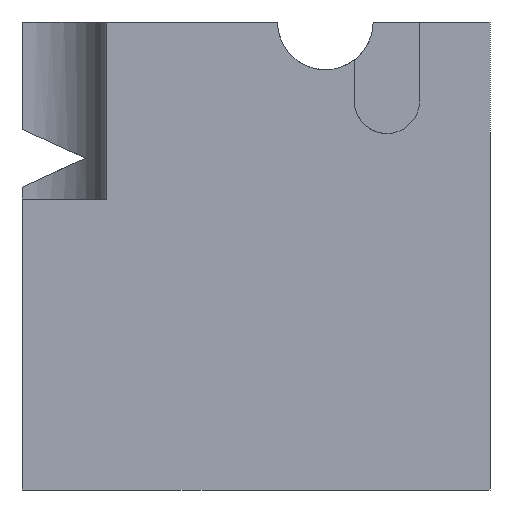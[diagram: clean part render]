
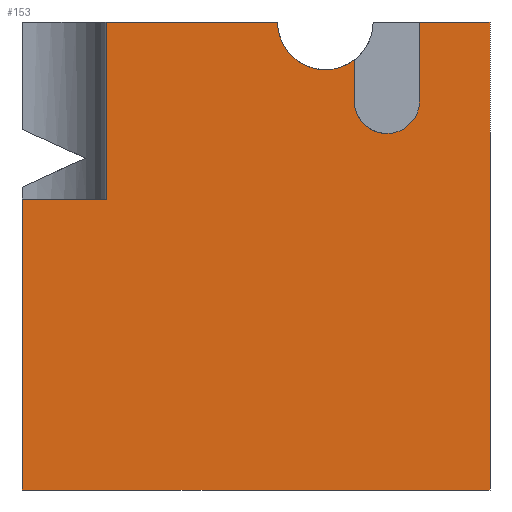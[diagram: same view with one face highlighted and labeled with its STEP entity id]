
A CAD part, left-side view. The second image highlights one B-rep face of the part: STEP entity #153.
In plain terms, the highlighted planar face has unit normal (-1, 0, 0).
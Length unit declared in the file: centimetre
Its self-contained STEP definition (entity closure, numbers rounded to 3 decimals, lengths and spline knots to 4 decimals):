
#11 = LINE ( 'NONE', #408, #1418 ) ;
#12 = VECTOR ( 'NONE', #949, 100. ) ;
#18 = ORIENTED_EDGE ( 'NONE', *, *, #759, .T. ) ;
#21 = CARTESIAN_POINT ( 'NONE',  ( 0., 150.6446, 831.5183 ) ) ;
#30 = DIRECTION ( 'NONE',  ( 0., 0., -1. ) ) ;
#38 = EDGE_CURVE ( 'NONE', #1297, #518, #152, .T. ) ;
#49 = CARTESIAN_POINT ( 'NONE',  ( 0., 1000., 1000. ) ) ;
#52 = ORIENTED_EDGE ( 'NONE', *, *, #133, .F. ) ;
#80 = VECTOR ( 'NONE', #1447, 100. ) ;
#87 = AXIS2_PLACEMENT_3D ( 'NONE', #1377, #1399, #1166 ) ;
#101 = CARTESIAN_POINT ( 'NONE',  ( 0., 1000., 621.7943 ) ) ;
#107 = ORIENTED_EDGE ( 'NONE', *, *, #481, .F. ) ;
#127 = LINE ( 'NONE', #1327, #286 ) ;
#133 = EDGE_CURVE ( 'NONE', #921, #825, #127, .T. ) ;
#149 = PLANE ( 'NONE',  #236 ) ;
#151 = CARTESIAN_POINT ( 'NONE',  ( 0., 351.8234, 1000. ) ) ;
#152 = LINE ( 'NONE', #1094, #80 ) ;
#153 = ADVANCED_FACE ( 'NONE', ( #1005 ), #149, .F. ) ;
#160 = ORIENTED_EDGE ( 'NONE', *, *, #1078, .F. ) ;
#236 = AXIS2_PLACEMENT_3D ( 'NONE', #49, #975, #424 ) ;
#250 = LINE ( 'NONE', #706, #1064 ) ;
#265 = LINE ( 'NONE', #971, #988 ) ;
#282 = VERTEX_POINT ( 'NONE', #1123 ) ;
#285 = CARTESIAN_POINT ( 'NONE',  ( 0., 0., 0. ) ) ;
#286 = VECTOR ( 'NONE', #1061, 100. ) ;
#301 = VECTOR ( 'NONE', #417, 100. ) ;
#325 = EDGE_CURVE ( 'NONE', #1431, #282, #884, .T. ) ;
#346 = CARTESIAN_POINT ( 'NONE',  ( 0., 150.6446, 831.5183 ) ) ;
#350 = VECTOR ( 'NONE', #709, 100. ) ;
#367 = EDGE_LOOP ( 'NONE', ( #1037, #1110, #935, #18, #1124, #52, #160, #728, #107, #677, #572 ) ) ;
#401 = VECTOR ( 'NONE', #735, 100. ) ;
#405 = DIRECTION ( 'NONE',  ( -1., 0., 0. ) ) ;
#408 = CARTESIAN_POINT ( 'NONE',  ( 0., 1000., 0. ) ) ;
#410 = LINE ( 'NONE', #21, #301 ) ;
#417 = DIRECTION ( 'NONE',  ( 0., 0., 1. ) ) ;
#424 = DIRECTION ( 'NONE',  ( 0., 0., -1. ) ) ;
#481 = EDGE_CURVE ( 'NONE', #1386, #649, #1393, .T. ) ;
#506 = CARTESIAN_POINT ( 'NONE',  ( 0., 1000., 0. ) ) ;
#518 = VERTEX_POINT ( 'NONE', #1019 ) ;
#524 = DIRECTION ( 'NONE',  ( 0., 0., 1. ) ) ;
#572 = ORIENTED_EDGE ( 'NONE', *, *, #325, .F. ) ;
#643 = EDGE_CURVE ( 'NONE', #282, #1386, #250, .T. ) ;
#649 = VERTEX_POINT ( 'NONE', #346 ) ;
#650 = CARTESIAN_POINT ( 'NONE',  ( 0., 1000., 1000. ) ) ;
#677 = ORIENTED_EDGE ( 'NONE', *, *, #643, .F. ) ;
#694 = AXIS2_PLACEMENT_3D ( 'NONE', #151, #405, #524 ) ;
#706 = CARTESIAN_POINT ( 'NONE',  ( 0., 290.347, 1000. ) ) ;
#709 = DIRECTION ( 'NONE',  ( 0., -1., 0. ) ) ;
#717 = LINE ( 'NONE', #101, #350 ) ;
#728 = ORIENTED_EDGE ( 'NONE', *, *, #824, .F. ) ;
#731 = EDGE_CURVE ( 'NONE', #1297, #1431, #848, .T. ) ;
#735 = DIRECTION ( 'NONE',  ( 0., -1., 0. ) ) ;
#746 = CARTESIAN_POINT ( 'NONE',  ( 0., 1000., 621.7943 ) ) ;
#756 = CARTESIAN_POINT ( 'NONE',  ( 0., 150.6446, 1000. ) ) ;
#759 = EDGE_CURVE ( 'NONE', #1476, #947, #265, .T. ) ;
#761 = CARTESIAN_POINT ( 'NONE',  ( 0., 290.347, 831.5183 ) ) ;
#824 = EDGE_CURVE ( 'NONE', #649, #1052, #410, .T. ) ;
#825 = VERTEX_POINT ( 'NONE', #285 ) ;
#843 = CARTESIAN_POINT ( 'NONE',  ( 0., 453.9795, 1000. ) ) ;
#848 = LINE ( 'NONE', #1552, #12 ) ;
#884 = CIRCLE ( 'NONE', #694, 102.1561 ) ;
#921 = VERTEX_POINT ( 'NONE', #1055 ) ;
#935 = ORIENTED_EDGE ( 'NONE', *, *, #1266, .F. ) ;
#936 = EDGE_CURVE ( 'NONE', #947, #825, #11, .T. ) ;
#947 = VERTEX_POINT ( 'NONE', #506 ) ;
#949 = DIRECTION ( 'NONE',  ( 0., -1., 0. ) ) ;
#971 = CARTESIAN_POINT ( 'NONE',  ( 0., 1000., 1000. ) ) ;
#975 = DIRECTION ( 'NONE',  ( 1., 0., 0. ) ) ;
#988 = VECTOR ( 'NONE', #30, 100. ) ;
#1005 = FACE_OUTER_BOUND ( 'NONE', #367, .T. ) ;
#1019 = CARTESIAN_POINT ( 'NONE',  ( 0., 820.2902, 621.7943 ) ) ;
#1037 = ORIENTED_EDGE ( 'NONE', *, *, #731, .F. ) ;
#1052 = VERTEX_POINT ( 'NONE', #756 ) ;
#1055 = CARTESIAN_POINT ( 'NONE',  ( 0., 0., 1000. ) ) ;
#1061 = DIRECTION ( 'NONE',  ( 0., 0., -1. ) ) ;
#1064 = VECTOR ( 'NONE', #1075, 100. ) ;
#1075 = DIRECTION ( 'NONE',  ( 0., 0., -1. ) ) ;
#1078 = EDGE_CURVE ( 'NONE', #1052, #921, #1235, .T. ) ;
#1094 = CARTESIAN_POINT ( 'NONE',  ( 0., 820.2902, 621.7943 ) ) ;
#1110 = ORIENTED_EDGE ( 'NONE', *, *, #38, .T. ) ;
#1123 = CARTESIAN_POINT ( 'NONE',  ( 0., 290.347, 918.4124 ) ) ;
#1124 = ORIENTED_EDGE ( 'NONE', *, *, #936, .T. ) ;
#1166 = DIRECTION ( 'NONE',  ( 0., 0., 1. ) ) ;
#1220 = DIRECTION ( 'NONE',  ( 0., -1., 0. ) ) ;
#1235 = LINE ( 'NONE', #650, #401 ) ;
#1266 = EDGE_CURVE ( 'NONE', #1476, #518, #717, .T. ) ;
#1287 = CARTESIAN_POINT ( 'NONE',  ( 0., 820.2902, 1000. ) ) ;
#1297 = VERTEX_POINT ( 'NONE', #1287 ) ;
#1327 = CARTESIAN_POINT ( 'NONE',  ( 0., 0., 1000. ) ) ;
#1377 = CARTESIAN_POINT ( 'NONE',  ( 0., 220.4958, 831.5183 ) ) ;
#1386 = VERTEX_POINT ( 'NONE', #761 ) ;
#1393 = CIRCLE ( 'NONE', #87, 69.8512 ) ;
#1399 = DIRECTION ( 'NONE',  ( -1., 0., 0. ) ) ;
#1418 = VECTOR ( 'NONE', #1220, 100. ) ;
#1431 = VERTEX_POINT ( 'NONE', #843 ) ;
#1447 = DIRECTION ( 'NONE',  ( 0., 0., -1. ) ) ;
#1476 = VERTEX_POINT ( 'NONE', #746 ) ;
#1552 = CARTESIAN_POINT ( 'NONE',  ( 0., 1000., 1000. ) ) ;
